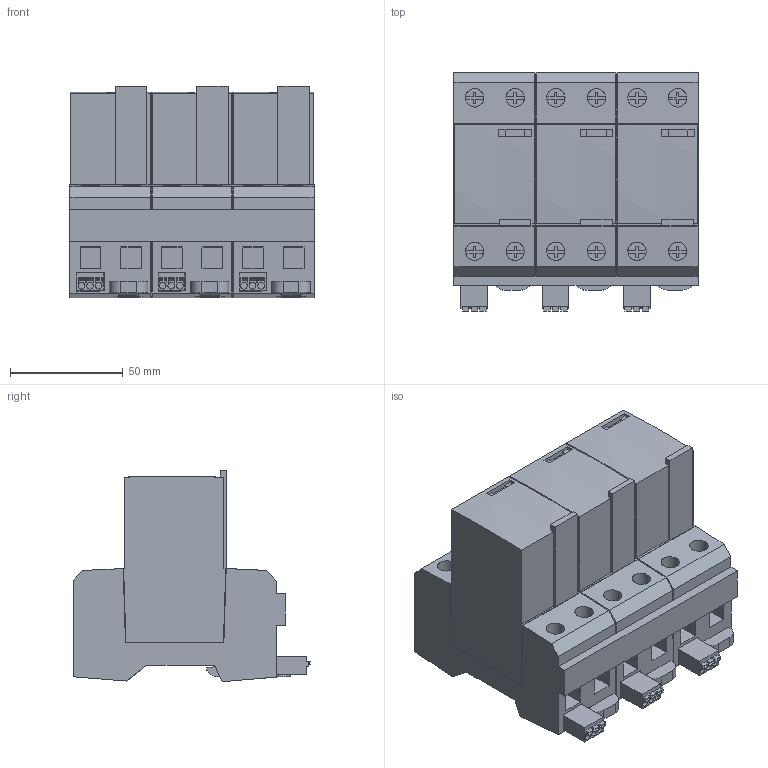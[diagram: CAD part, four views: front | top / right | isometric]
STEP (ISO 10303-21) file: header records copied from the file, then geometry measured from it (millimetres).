
FILE_DESCRIPTION((''),'2;1');
FILE_NAME('1695284973236_ASM','2023-09-21T14:00:02',('SESA730405'),('Schneider-Electric'),'CREO PARAMETRIC BY PTC INC, 2021284','CREO PARAMETRIC BY PTC INC, 2021284','');
FILE_SCHEMA(('AP242_MANAGED_MODEL_BASED_3D_ENGINEERING_MIM_LF { 1 0 10303 442 1 1 4 }'));
Length unit declared in the file: millimetre
Products named in the file (5): EMPTYNODE_1695284973875_ASM; PKR5694601-3D; MOUNTING_CLIP_2-3D; PKR5694601-3D_ASM; 1695284973236_ASM
Assembly tree (6 placements, depth 3):
  1695284973236_ASM
    EMPTYNODE_1695284973875_ASM
    PKR5694601-3D_ASM
      PKR5694601-3D
      MOUNTING_CLIP_2-3D  x3
Bounding box: 108.17 x 105.47 x 93.73 mm (x, y, z)
Volume: 604097.5 mm3; surface area: 94747.1 mm2
Topology: 4 solids, 4 shells, 857 faces, 2275 edges, 1470 vertices
Faces by surface type: plane 763, cylinder 84, extrusion 6, cone 4
Entity records: 36055 total; most frequent: CARTESIAN_POINT 4659, ORIENTED_EDGE 4234, DIRECTION 3861, PRESENTATION_STYLE_ASSIGNMENT 2529, STYLED_ITEM 2127, CURVE_STYLE 2117, EDGE_CURVE 2117, VECTOR 1909
